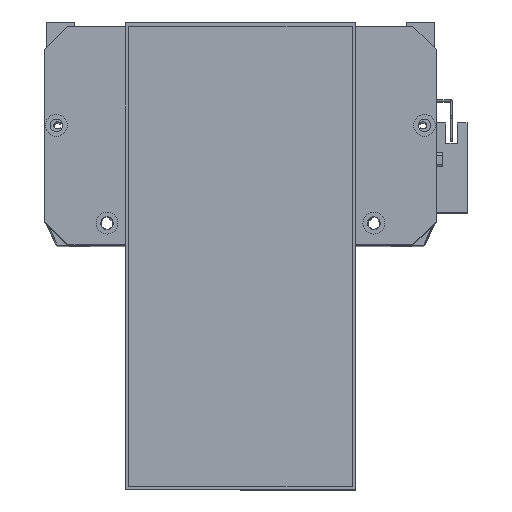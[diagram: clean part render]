
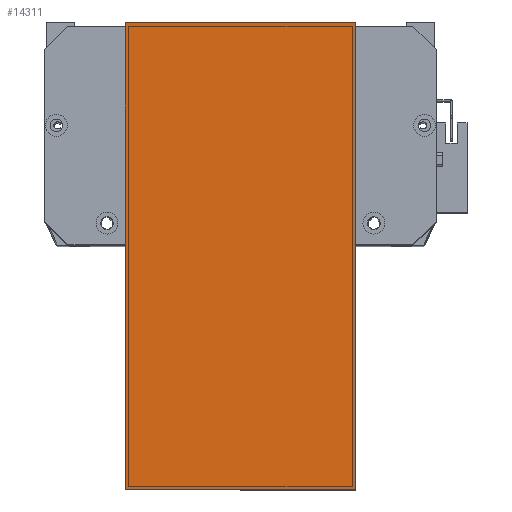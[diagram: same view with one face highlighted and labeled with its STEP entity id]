
A CAD part, top view. The second image highlights one B-rep face of the part: STEP entity #14311.
In plain terms, the highlighted planar face has unit normal (0, 0, 1) as drawn and (0, 0, -1) by its records, which use the part's own axes.
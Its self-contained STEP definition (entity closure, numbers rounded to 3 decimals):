
#566 = CARTESIAN_POINT ( 'NONE',  ( 0., 0., 0. ) ) ;
#788 = CARTESIAN_POINT ( 'NONE',  ( 0., 119.5, 0. ) ) ;
#1530 = VECTOR ( 'NONE', #15171, 1000. ) ;
#1807 = VECTOR ( 'NONE', #24305, 1000. ) ;
#2448 = CARTESIAN_POINT ( 'NONE',  ( 203., 19.5, 0. ) ) ;
#2615 = DIRECTION ( 'NONE',  ( 1., 0., 0. ) ) ;
#4132 = FACE_OUTER_BOUND ( 'NONE', #14240, .T. ) ;
#5240 = VECTOR ( 'NONE', #8540, 1000. ) ;
#5415 = ORIENTED_EDGE ( 'NONE', *, *, #11626, .F. ) ;
#5538 = CARTESIAN_POINT ( 'NONE',  ( -12., 19.5, 0. ) ) ;
#5555 = DIRECTION ( 'NONE',  ( 0., 0., -1. ) ) ;
#6618 = VECTOR ( 'NONE', #2615, 1000. ) ;
#7098 = LINE ( 'NONE', #566, #1530 ) ;
#8540 = DIRECTION ( 'NONE',  ( 0., 1., 0. ) ) ;
#10214 = VERTEX_POINT ( 'NONE', #19243 ) ;
#10230 = EDGE_CURVE ( 'NONE', #25840, #10214, #7098, .T. ) ;
#10648 = CARTESIAN_POINT ( 'NONE',  ( 203., 0., 0. ) ) ;
#10753 = CARTESIAN_POINT ( 'NONE',  ( 203., 119.5, 0. ) ) ;
#11626 = EDGE_CURVE ( 'NONE', #22241, #26846, #21855, .T. ) ;
#12157 = LINE ( 'NONE', #15091, #6618 ) ;
#13869 = CARTESIAN_POINT ( 'NONE',  ( 0., 0., 0. ) ) ;
#14240 = EDGE_LOOP ( 'NONE', ( #24214, #21103, #18815, #5415 ) ) ;
#14311 = ADVANCED_FACE ( 'NONE', ( #4132 ), #22119, .T. ) ;
#15091 = CARTESIAN_POINT ( 'NONE',  ( -12., 119.5, 0. ) ) ;
#15171 = DIRECTION ( 'NONE',  ( 0., -1., 0. ) ) ;
#17545 = EDGE_CURVE ( 'NONE', #10214, #22241, #23958, .T. ) ;
#18815 = ORIENTED_EDGE ( 'NONE', *, *, #18855, .T. ) ;
#18855 = EDGE_CURVE ( 'NONE', #25840, #26846, #12157, .T. ) ;
#19243 = CARTESIAN_POINT ( 'NONE',  ( 0., 19.5, 0. ) ) ;
#20126 = DIRECTION ( 'NONE',  ( -1., 0., 0. ) ) ;
#21103 = ORIENTED_EDGE ( 'NONE', *, *, #10230, .F. ) ;
#21855 = LINE ( 'NONE', #10648, #5240 ) ;
#22119 = PLANE ( 'NONE',  #25226 ) ;
#22241 = VERTEX_POINT ( 'NONE', #2448 ) ;
#23958 = LINE ( 'NONE', #5538, #1807 ) ;
#24214 = ORIENTED_EDGE ( 'NONE', *, *, #17545, .F. ) ;
#24305 = DIRECTION ( 'NONE',  ( 1., 0., 0. ) ) ;
#25226 = AXIS2_PLACEMENT_3D ( 'NONE', #13869, #5555, #20126 ) ;
#25840 = VERTEX_POINT ( 'NONE', #788 ) ;
#26846 = VERTEX_POINT ( 'NONE', #10753 ) ;
